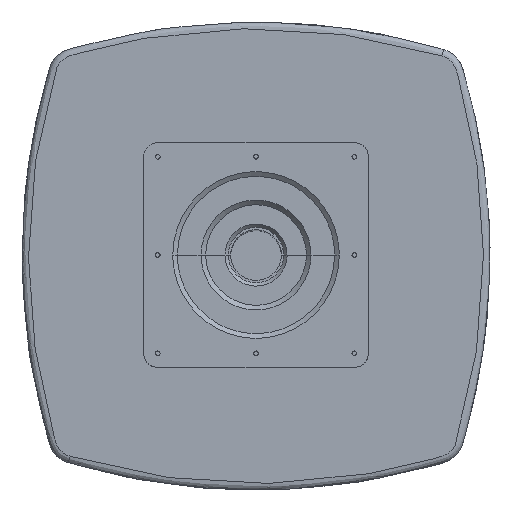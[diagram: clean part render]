
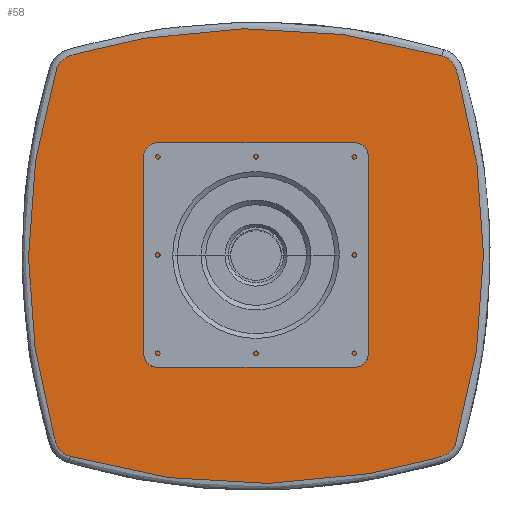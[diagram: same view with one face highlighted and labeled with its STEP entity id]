
A CAD part, top view. The second image highlights one B-rep face of the part: STEP entity #58.
In plain terms, the highlighted planar face has unit normal (0, 0, 1).
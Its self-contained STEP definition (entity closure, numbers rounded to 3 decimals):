
#15=FACE_BOUND('',#221,.T.);
#58=ADVANCED_FACE('',(#139,#15),#1246,.T.);
#139=FACE_OUTER_BOUND('',#220,.T.);
#220=EDGE_LOOP('',(#384,#385));
#221=EDGE_LOOP('',(#386,#387));
#384=ORIENTED_EDGE('',*,*,#738,.T.);
#385=ORIENTED_EDGE('',*,*,#726,.T.);
#386=ORIENTED_EDGE('',*,*,#860,.T.);
#387=ORIENTED_EDGE('',*,*,#805,.T.);
#726=EDGE_CURVE('',#1097,#1096,#935,.T.);
#738=EDGE_CURVE('',#1096,#1097,#947,.T.);
#805=EDGE_CURVE('',#1098,#1099,#1003,.T.);
#860=EDGE_CURVE('',#1099,#1098,#1051,.T.);
#935=(
BOUNDED_CURVE()
B_SPLINE_CURVE(3,(#2320,#2321,#2322,#2323,#2324,#2325,#2326,#2327,#2328,
#2329,#2330,#2331,#2332,#2333,#2334,#2335,#2336,#2337,#2338,#2339,#2340,
#2341,#2342,#2343,#2344,#2345,#2346,#2347,#2348,#2349,#2350,#2351,#2352),
 .UNSPECIFIED.,.F.,.F.)
B_SPLINE_CURVE_WITH_KNOTS((4,1,1,1,1,1,1,1,3,1,1,1,3,1,1,1,1,1,1,1,3,1,
1,1,4),(-851.64,-801.673,-751.383,-700.857,
-650.186,-599.516,-548.99,-498.7,
-448.732,-443.107,-437.277,-431.446,
-425.821,-375.854,-325.563,-275.037,
-224.367,-173.696,-123.17,-72.88,
-22.913,-17.287,-11.38,-5.482,0.),
 .UNSPECIFIED.)
CURVE()
GEOMETRIC_REPRESENTATION_ITEM()
RATIONAL_B_SPLINE_CURVE((1.,1.,1.,1.,
1.,1.,1.,1.,
1.,1.,1.,1.,1.,1.,1.,1.,1.,1.,
1.,1.,1.,1.,1.,1.,1.,1.,1.,1.,1.,1.,
1.,1.,1.))
REPRESENTATION_ITEM('')
);
#947=(
BOUNDED_CURVE()
B_SPLINE_CURVE(3,(#2404,#2405,#2406,#2407,#2408,#2409,#2410,#2411,#2412,
#2413,#2414,#2415,#2416,#2417,#2418,#2419,#2420,#2421,#2422,#2423,#2424,
#2425,#2426,#2427,#2428,#2429,#2430,#2431,#2432,#2433,#2434,#2435,#2436),
 .UNSPECIFIED.,.F.,.F.)
B_SPLINE_CURVE_WITH_KNOTS((4,1,1,1,1,1,1,1,3,1,1,1,3,1,1,1,1,1,1,1,3,1,
1,1,4),(-1701.712,-1652.42,-1602.177,-1551.699,
-1500.76,-1449.819,-1399.34,-1349.096,-1299.175,
-1293.554,-1287.729,-1281.904,-1276.284,
-1226.363,-1176.119,-1125.639,-1075.015,
-1024.391,-973.912,-923.668,-873.747,
-868.126,-862.301,-856.477,-850.856),
 .UNSPECIFIED.)
CURVE()
GEOMETRIC_REPRESENTATION_ITEM()
RATIONAL_B_SPLINE_CURVE((1.,1.,1.,1.,1.,1.,1.,1.,1.,1.,1.,1.,1.,
1.,1.,1.,1.,1.,1.,1.,1.,1.,1.,
1.,1.,1.,1.,1.,1.,1.,1.,1.,
1.))
REPRESENTATION_ITEM('')
);
#1003=(
BOUNDED_CURVE()
B_SPLINE_CURVE(2,(#2691,#2692,#2693,#2694,#2695),.UNSPECIFIED.,.F.,.F.)
B_SPLINE_CURVE_WITH_KNOTS((3,2,3),(0.,141.372,282.743),
 .UNSPECIFIED.)
CURVE()
GEOMETRIC_REPRESENTATION_ITEM()
RATIONAL_B_SPLINE_CURVE((1.,0.707,1.,0.707,1.))
REPRESENTATION_ITEM('')
);
#1051=(
BOUNDED_CURVE()
B_SPLINE_CURVE(2,(#2897,#2898,#2899,#2900,#2901),.UNSPECIFIED.,.F.,.F.)
B_SPLINE_CURVE_WITH_KNOTS((3,2,3),(282.743,424.115,565.487),
 .UNSPECIFIED.)
CURVE()
GEOMETRIC_REPRESENTATION_ITEM()
RATIONAL_B_SPLINE_CURVE((1.,0.707,1.,0.707,1.))
REPRESENTATION_ITEM('')
);
#1096=VERTEX_POINT('',#2122);
#1097=VERTEX_POINT('',#2123);
#1098=VERTEX_POINT('',#2124);
#1099=VERTEX_POINT('',#2125);
#1246=PLANE('',#1295);
#1295=AXIS2_PLACEMENT_3D('',#1439,#1327,$);
#1327=DIRECTION('',(0.,0.,1.));
#1439=CARTESIAN_POINT('',(-292.46,-292.469,11.));
#2122=CARTESIAN_POINT('',(-198.512,-213.959,11.));
#2123=CARTESIAN_POINT('',(198.512,213.959,11.));
#2124=CARTESIAN_POINT('',(30.25,0.,10.996));
#2125=CARTESIAN_POINT('',(-30.25,0.,10.996));
#2320=CARTESIAN_POINT('',(198.512,213.959,11.));
#2321=CARTESIAN_POINT('',(182.564,218.728,11.));
#2322=CARTESIAN_POINT('',(150.219,227.141,11.));
#2323=CARTESIAN_POINT('',(100.788,236.249,11.));
#2324=CARTESIAN_POINT('',(50.592,241.768,11.));
#2325=CARTESIAN_POINT('',(0.,243.617,11.));
#2326=CARTESIAN_POINT('',(-50.592,241.768,11.));
#2327=CARTESIAN_POINT('',(-100.788,236.249,11.));
#2328=CARTESIAN_POINT('',(-150.219,227.141,11.));
#2329=CARTESIAN_POINT('',(-182.564,218.728,11.));
#2330=CARTESIAN_POINT('',(-198.512,213.959,11.));
#2331=CARTESIAN_POINT('',(-200.297,213.426,11.));
#2332=CARTESIAN_POINT('',(-203.799,211.895,11.));
#2333=CARTESIAN_POINT('',(-208.36,208.36,11.));
#2334=CARTESIAN_POINT('',(-211.895,203.799,11.));
#2335=CARTESIAN_POINT('',(-213.426,200.297,11.));
#2336=CARTESIAN_POINT('',(-213.959,198.512,11.));
#2337=CARTESIAN_POINT('',(-218.728,182.564,11.));
#2338=CARTESIAN_POINT('',(-227.141,150.219,11.));
#2339=CARTESIAN_POINT('',(-236.249,100.788,11.));
#2340=CARTESIAN_POINT('',(-241.768,50.592,11.));
#2341=CARTESIAN_POINT('',(-243.617,0.,11.));
#2342=CARTESIAN_POINT('',(-241.768,-50.592,11.));
#2343=CARTESIAN_POINT('',(-236.249,-100.788,11.));
#2344=CARTESIAN_POINT('',(-227.141,-150.219,11.));
#2345=CARTESIAN_POINT('',(-218.728,-182.564,11.));
#2346=CARTESIAN_POINT('',(-213.959,-198.512,11.));
#2347=CARTESIAN_POINT('',(-213.426,-200.297,11.));
#2348=CARTESIAN_POINT('',(-211.885,-203.822,11.));
#2349=CARTESIAN_POINT('',(-208.312,-208.416,11.));
#2350=CARTESIAN_POINT('',(-203.734,-211.93,11.));
#2351=CARTESIAN_POINT('',(-200.251,-213.44,11.));
#2352=CARTESIAN_POINT('',(-198.512,-213.959,11.));
#2404=CARTESIAN_POINT('',(-198.512,-213.959,11.));
#2405=CARTESIAN_POINT('',(-182.764,-218.668,11.));
#2406=CARTESIAN_POINT('',(-150.628,-227.043,11.));
#2407=CARTESIAN_POINT('',(-101.412,-236.157,11.));
#2408=CARTESIAN_POINT('',(-51.117,-241.733,11.));
#2409=CARTESIAN_POINT('',(-0.316,-243.625,11.));
#2410=CARTESIAN_POINT('',(50.487,-241.779,11.));
#2411=CARTESIAN_POINT('',(100.788,-236.249,11.));
#2412=CARTESIAN_POINT('',(150.219,-227.141,11.));
#2413=CARTESIAN_POINT('',(182.564,-218.728,11.));
#2414=CARTESIAN_POINT('',(198.512,-213.959,11.));
#2415=CARTESIAN_POINT('',(200.297,-213.426,11.));
#2416=CARTESIAN_POINT('',(203.799,-211.895,11.));
#2417=CARTESIAN_POINT('',(208.36,-208.36,11.));
#2418=CARTESIAN_POINT('',(211.895,-203.799,11.));
#2419=CARTESIAN_POINT('',(213.426,-200.297,11.));
#2420=CARTESIAN_POINT('',(213.959,-198.512,11.));
#2421=CARTESIAN_POINT('',(218.728,-182.564,11.));
#2422=CARTESIAN_POINT('',(227.141,-150.219,11.));
#2423=CARTESIAN_POINT('',(236.249,-100.788,11.));
#2424=CARTESIAN_POINT('',(241.768,-50.592,11.));
#2425=CARTESIAN_POINT('',(243.617,0.,11.));
#2426=CARTESIAN_POINT('',(241.768,50.592,11.));
#2427=CARTESIAN_POINT('',(236.249,100.788,11.));
#2428=CARTESIAN_POINT('',(227.141,150.219,11.));
#2429=CARTESIAN_POINT('',(218.728,182.564,11.));
#2430=CARTESIAN_POINT('',(213.959,198.512,11.));
#2431=CARTESIAN_POINT('',(213.426,200.297,11.));
#2432=CARTESIAN_POINT('',(211.895,203.799,11.));
#2433=CARTESIAN_POINT('',(208.36,208.36,11.));
#2434=CARTESIAN_POINT('',(203.799,211.895,11.));
#2435=CARTESIAN_POINT('',(200.297,213.426,11.));
#2436=CARTESIAN_POINT('',(198.512,213.959,11.));
#2691=CARTESIAN_POINT('',(30.25,0.,10.996));
#2692=CARTESIAN_POINT('',(30.25,-30.25,10.996));
#2693=CARTESIAN_POINT('',(0.,-30.25,10.996));
#2694=CARTESIAN_POINT('',(-30.25,-30.25,10.996));
#2695=CARTESIAN_POINT('',(-30.25,0.,10.996));
#2897=CARTESIAN_POINT('',(-30.25,0.,10.996));
#2898=CARTESIAN_POINT('',(-30.25,30.25,10.996));
#2899=CARTESIAN_POINT('',(0.,30.25,10.996));
#2900=CARTESIAN_POINT('',(30.25,30.25,10.996));
#2901=CARTESIAN_POINT('',(30.25,0.,10.996));
